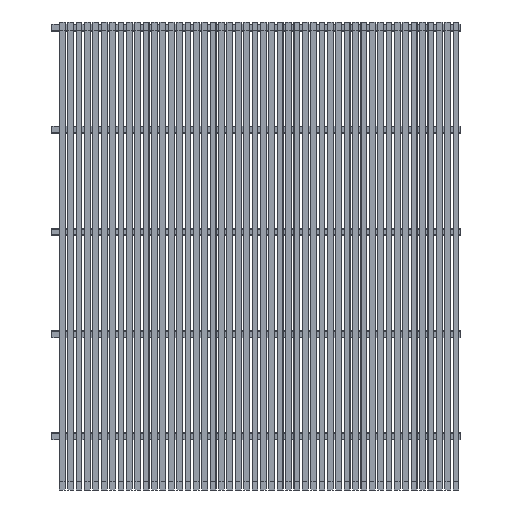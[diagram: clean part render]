
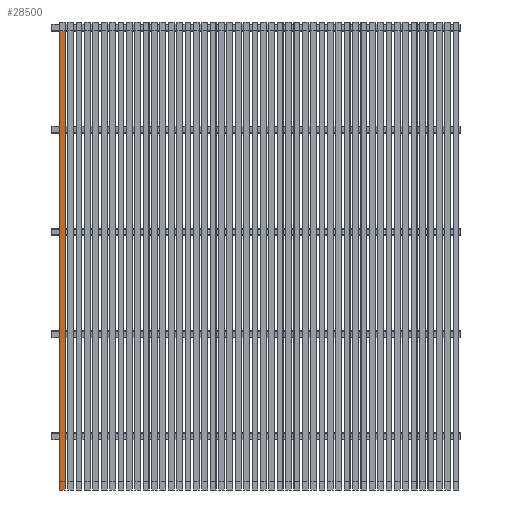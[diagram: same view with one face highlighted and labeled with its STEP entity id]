
A CAD part, front view. The second image highlights one B-rep face of the part: STEP entity #28500.
In plain terms, the highlighted planar face has unit normal (0, -1, 0).
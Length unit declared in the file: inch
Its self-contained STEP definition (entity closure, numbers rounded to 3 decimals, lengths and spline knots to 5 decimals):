
#815=PLANE('',#29946);
#2004=FACE_OUTER_BOUND('',#3392,.T.);
#3392=EDGE_LOOP('',(#19999,#20000,#20001,#20002));
#5172=LINE('',#39379,#8924);
#5173=LINE('',#39382,#8925);
#5174=LINE('',#39384,#8926);
#5175=LINE('',#39385,#8927);
#8924=VECTOR('',#31844,0.3937);
#8925=VECTOR('',#31847,0.3937);
#8926=VECTOR('',#31848,0.3937);
#8927=VECTOR('',#31849,0.3937);
#13075=VERTEX_POINT('',#39372);
#13078=VERTEX_POINT('',#39377);
#13079=VERTEX_POINT('',#39381);
#13080=VERTEX_POINT('',#39383);
#15846=EDGE_CURVE('',#13075,#13078,#5172,.T.);
#15847=EDGE_CURVE('',#13079,#13075,#5173,.T.);
#15848=EDGE_CURVE('',#13080,#13078,#5174,.T.);
#15849=EDGE_CURVE('',#13079,#13080,#5175,.T.);
#19999=ORIENTED_EDGE('',*,*,#15847,.T.);
#20000=ORIENTED_EDGE('',*,*,#15846,.T.);
#20001=ORIENTED_EDGE('',*,*,#15848,.F.);
#20002=ORIENTED_EDGE('',*,*,#15849,.F.);
#28500=ADVANCED_FACE('',(#2004),#815,.T.);
#29946=AXIS2_PLACEMENT_3D('',#39380,#31845,#31846);
#31844=DIRECTION('',(0.,0.,1.));
#31845=DIRECTION('center_axis',(0.,-1.,0.));
#31846=DIRECTION('ref_axis',(1.,0.,0.));
#31847=DIRECTION('',(1.,0.,0.));
#31848=DIRECTION('',(1.,0.,0.));
#31849=DIRECTION('',(0.,0.,1.));
#39372=CARTESIAN_POINT('',(1.3582,0.,0.));
#39377=CARTESIAN_POINT('',(1.3582,0.,108.));
#39379=CARTESIAN_POINT('',(1.3582,0.,0.));
#39380=CARTESIAN_POINT('Origin',(0.0197,0.,
0.));
#39381=CARTESIAN_POINT('',(0.0197,0.,0.));
#39382=CARTESIAN_POINT('',(0.0197,0.,0.));
#39383=CARTESIAN_POINT('',(0.0197,0.,108.));
#39384=CARTESIAN_POINT('',(0.0197,0.,108.));
#39385=CARTESIAN_POINT('',(0.0197,0.,0.));
